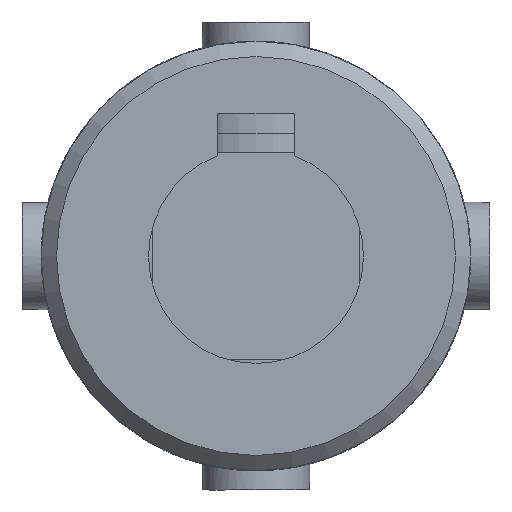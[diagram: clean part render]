
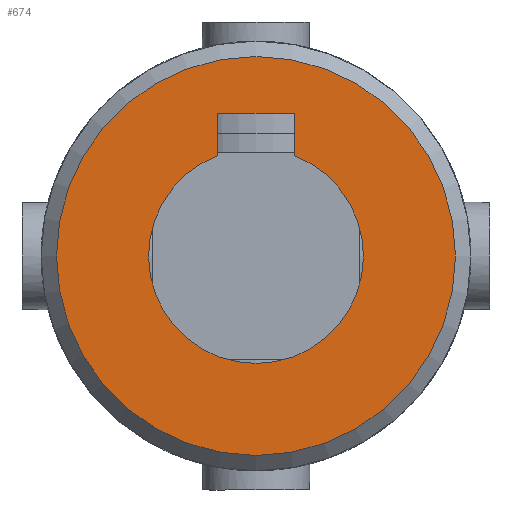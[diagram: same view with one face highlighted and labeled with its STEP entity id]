
A CAD part, left-side view. The second image highlights one B-rep face of the part: STEP entity #674.
In plain terms, the highlighted planar face has unit normal (-1, 0, 0) as drawn and (0, -1, 0) by its records, which use the part's own axes.
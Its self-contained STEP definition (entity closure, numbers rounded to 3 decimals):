
#81=LINE('',#1028,#114);
#86=LINE('',#1045,#119);
#87=LINE('',#1058,#120);
#114=VECTOR('',#844,2.762);
#119=VECTOR('',#855,2.762);
#120=VECTOR('',#858,5.);
#146=PLANE('',#735);
#169=FACE_BOUND('',#249,.T.);
#194=FACE_OUTER_BOUND('',#248,.T.);
#248=EDGE_LOOP('',(#541));
#249=EDGE_LOOP('',(#542,#543,#544,#545));
#282=CIRCLE('',#723,7.);
#287=CIRCLE('',#733,13.);
#320=VERTEX_POINT('',#1017);
#321=VERTEX_POINT('',#1019);
#323=VERTEX_POINT('',#1027);
#329=VERTEX_POINT('',#1043);
#331=VERTEX_POINT('',#1064);
#391=EDGE_CURVE('',#321,#320,#282,.T.);
#394=EDGE_CURVE('',#323,#321,#81,.T.);
#402=EDGE_CURVE('',#320,#329,#86,.T.);
#404=EDGE_CURVE('',#329,#323,#87,.T.);
#407=EDGE_CURVE('',#331,#331,#287,.T.);
#541=ORIENTED_EDGE('',*,*,#407,.F.);
#542=ORIENTED_EDGE('',*,*,#402,.T.);
#543=ORIENTED_EDGE('',*,*,#404,.T.);
#544=ORIENTED_EDGE('',*,*,#394,.T.);
#545=ORIENTED_EDGE('',*,*,#391,.T.);
#674=ADVANCED_FACE('',(#194,#169),#146,.F.);
#723=AXIS2_PLACEMENT_3D('',#1020,#839,#840);
#733=AXIS2_PLACEMENT_3D('',#1065,#867,#868);
#735=AXIS2_PLACEMENT_3D('',#1241,#875,#876);
#839=DIRECTION('center_axis',(0.,1.,0.));
#840=DIRECTION('ref_axis',(-0.357,0.,0.934));
#844=DIRECTION('',(0.,0.,1.));
#855=DIRECTION('',(0.,0.,-1.));
#858=DIRECTION('',(-1.,0.,0.));
#867=DIRECTION('center_axis',(0.,1.,0.));
#868=DIRECTION('ref_axis',(1.,0.,0.));
#875=DIRECTION('center_axis',(0.,1.,0.));
#876=DIRECTION('ref_axis',(0.,0.,1.));
#1017=CARTESIAN_POINT('',(2.5,-36.5,-6.538));
#1019=CARTESIAN_POINT('',(-2.5,-36.5,-6.538));
#1020=CARTESIAN_POINT('Origin',(0.,-36.5,0.));
#1027=CARTESIAN_POINT('',(-2.5,-36.5,-9.3));
#1028=CARTESIAN_POINT('',(-2.5,-36.5,-4.65));
#1043=CARTESIAN_POINT('',(2.5,-36.5,-9.3));
#1045=CARTESIAN_POINT('',(2.5,-36.5,-3.269));
#1058=CARTESIAN_POINT('',(1.25,-36.5,-9.3));
#1064=CARTESIAN_POINT('',(-13.,-36.5,0.));
#1065=CARTESIAN_POINT('Origin',(0.,-36.5,0.));
#1241=CARTESIAN_POINT('Origin',(0.,-36.5,0.));
